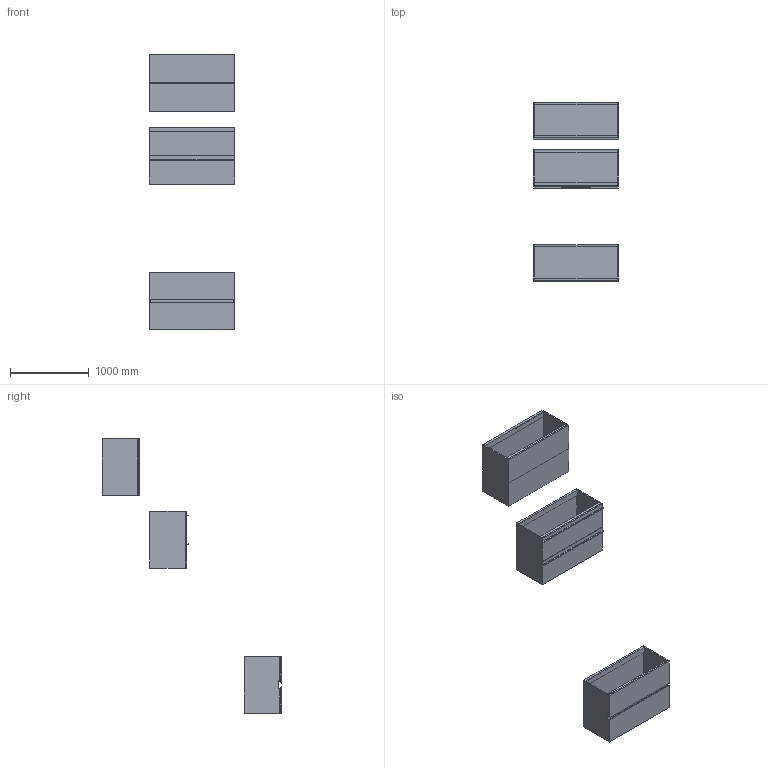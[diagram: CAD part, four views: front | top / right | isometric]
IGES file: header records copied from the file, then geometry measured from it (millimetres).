
Start section: Data from Parasolid IGES Translator 19.0.9, Copyright(c) 2006 Siemens PL M Software. All Rights Reserved.
Global section: file name: noorth-SI-H 72 D 47 W 108_8609.igs; native system: By Siemens PLM Incorporated; preprocessor: XPlus GENERIC/IGES 19.0.9; author: Noname; organization: Noname; date: 20200601.120925; units: metre
Bounding box: 1080 x 2270 x 3480.01 mm (x, y, z)
Volume: 112668038.1 mm3; surface area: 17682082 mm2
Topology: 27 solids, 27 shells, 266 faces, 580 edges, 348 vertices
Faces by surface type: plane 182, extrusion 36, bspline 32, cylinder 16
